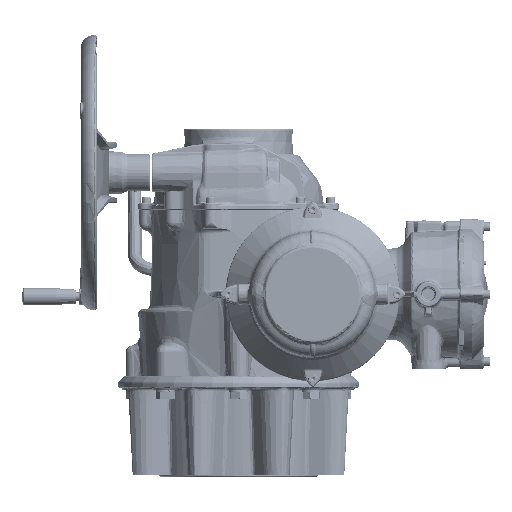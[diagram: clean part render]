
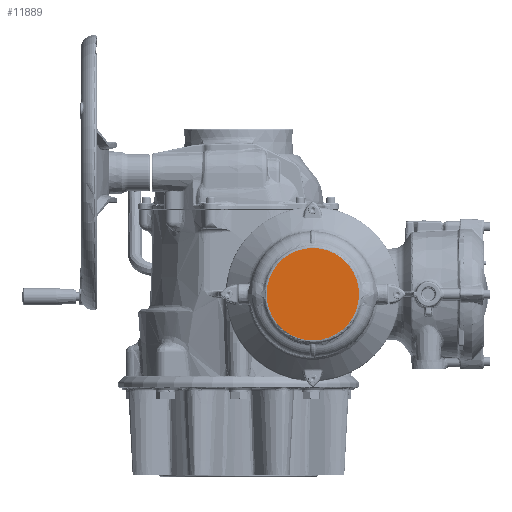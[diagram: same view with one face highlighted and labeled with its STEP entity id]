
A CAD part, left-side view. The second image highlights one B-rep face of the part: STEP entity #11889.
In plain terms, the highlighted planar face has unit normal (-1, 0, 0).
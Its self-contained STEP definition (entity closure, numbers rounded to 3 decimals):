
#11889 = ADVANCED_FACE( '', ( #28581 ), #28582, .T. );
#28581 = FACE_OUTER_BOUND( '', #164598, .T. );
#28582 = PLANE( '', #164599 );
#164598 = EDGE_LOOP( '', ( #420133 ) );
#164599 = AXIS2_PLACEMENT_3D( '', #420134, #420135, #420136 );
#420133 = ORIENTED_EDGE( '', *, *, #469716, .T. );
#420134 = CARTESIAN_POINT( '', ( -487.8, -108., 0. ) );
#420135 = DIRECTION( '', ( -1., 0., 0. ) );
#420136 = DIRECTION( '', ( 0., 0., -1. ) );
#469716 = EDGE_CURVE( '', #500571, #500571, #500572, .T. );
#500571 = VERTEX_POINT( '', #616573 );
#500572 = CIRCLE( '', #616574, 67.19 );
#616573 = CARTESIAN_POINT( '', ( -487.8, -108., -67.19 ) );
#616574 = AXIS2_PLACEMENT_3D( '', #712330, #712331, #712332 );
#712330 = CARTESIAN_POINT( '', ( -487.8, -108., 0. ) );
#712331 = DIRECTION( '', ( -1., 0., 0. ) );
#712332 = DIRECTION( '', ( 0., 0., -1. ) );
